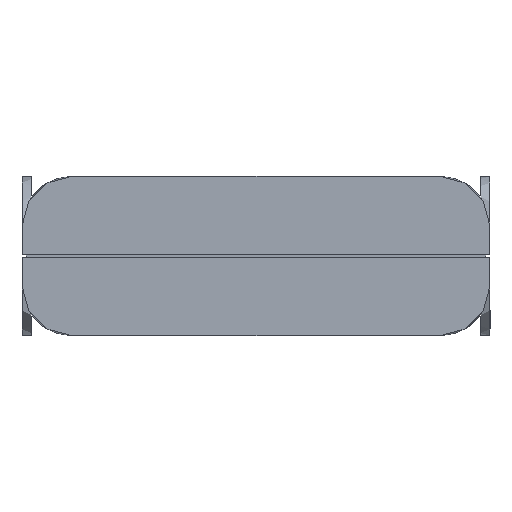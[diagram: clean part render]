
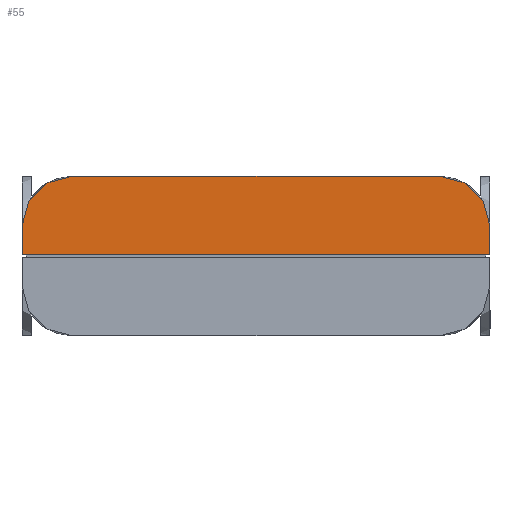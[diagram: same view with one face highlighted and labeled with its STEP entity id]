
A CAD part, left-side view. The second image highlights one B-rep face of the part: STEP entity #55.
In plain terms, the highlighted planar face has unit normal (-1, 0, 0).
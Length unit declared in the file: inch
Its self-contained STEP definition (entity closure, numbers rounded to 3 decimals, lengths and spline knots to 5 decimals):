
#55=ADVANCED_FACE('',(#111),#923,.T.);
#111=FACE_OUTER_BOUND('',#167,.T.);
#167=EDGE_LOOP('',(#315,#316,#317,#318,#319,#320));
#315=ORIENTED_EDGE('',*,*,#538,.F.);
#316=ORIENTED_EDGE('',*,*,#536,.F.);
#317=ORIENTED_EDGE('',*,*,#533,.F.);
#318=ORIENTED_EDGE('',*,*,#531,.F.);
#319=ORIENTED_EDGE('',*,*,#530,.T.);
#320=ORIENTED_EDGE('',*,*,#548,.F.);
#530=EDGE_CURVE('',#841,#851,#660,.T.);
#531=EDGE_CURVE('',#841,#842,#754,.T.);
#533=EDGE_CURVE('',#842,#844,#661,.T.);
#536=EDGE_CURVE('',#844,#846,#755,.T.);
#538=EDGE_CURVE('',#846,#853,#664,.T.);
#548=EDGE_CURVE('',#853,#851,#672,.T.);
#660=B_SPLINE_CURVE_WITH_KNOTS('',1,(#1514,#1515),.UNSPECIFIED.,.F.,.F.,
(2,2),(115.22523,116.66273),.UNSPECIFIED.);
#661=B_SPLINE_CURVE_WITH_KNOTS('',1,(#1521,#1522),.UNSPECIFIED.,.F.,.F.,
(2,2),(-111.29824,-92.79824),.UNSPECIFIED.);
#664=B_SPLINE_CURVE_WITH_KNOTS('',1,(#1533,#1534),.UNSPECIFIED.,.F.,.F.,
(2,2),(-88.87125,-87.43375),.UNSPECIFIED.);
#672=B_SPLINE_CURVE_WITH_KNOTS('',1,(#1615,#1616),.UNSPECIFIED.,.F.,.F.,
(2,2),(-47.25,-23.75),.UNSPECIFIED.);
#754=TRIMMED_CURVE($,#788,(#1517),(#1518),.T.,.CARTESIAN.);
#755=TRIMMED_CURVE($,#789,(#1528),(#1529),.T.,.CARTESIAN.);
#788=CIRCLE('',#1093,2.5);
#789=CIRCLE('',#1094,2.5);
#841=VERTEX_POINT('',#1479);
#842=VERTEX_POINT('',#1480);
#844=VERTEX_POINT('',#1482);
#846=VERTEX_POINT('',#1484);
#851=VERTEX_POINT('',#1489);
#853=VERTEX_POINT('',#1491);
#923=PLANE('',#1086);
#1086=AXIS2_PLACEMENT_3D('',#1469,#1188,$);
#1093=AXIS2_PLACEMENT_3D($,#1516,#1198,#1199);
#1094=AXIS2_PLACEMENT_3D($,#1527,#1200,#1201);
#1188=DIRECTION('',(-1.,0.,0.));
#1198=DIRECTION('',(1.,0.,0.));
#1199=DIRECTION('',(0.,1.,0.));
#1200=DIRECTION('',(1.,0.,0.));
#1201=DIRECTION('',(0.,0.,1.));
#1469=CARTESIAN_POINT('',(2710.03372,195.49431,-63.76385));
#1479=CARTESIAN_POINT('',(2710.03372,195.49431,-66.26385));
#1480=CARTESIAN_POINT('',(2710.03372,192.99431,-63.76385));
#1482=CARTESIAN_POINT('',(2710.03372,174.49431,-63.76385));
#1484=CARTESIAN_POINT('',(2710.03372,171.99431,-66.26385));
#1489=CARTESIAN_POINT('',(2710.03372,195.49431,-67.70135));
#1491=CARTESIAN_POINT('',(2710.03372,171.99431,-67.70135));
#1514=CARTESIAN_POINT('',(2710.03372,195.49431,-66.26385));
#1515=CARTESIAN_POINT('',(2710.03372,195.49431,-67.70135));
#1516=CARTESIAN_POINT('',(2710.03372,192.99431,-66.26385));
#1517=CARTESIAN_POINT('',(2710.03372,195.49431,-66.26385));
#1518=CARTESIAN_POINT('',(2710.03372,192.99431,-63.76385));
#1521=CARTESIAN_POINT('',(2710.03372,192.99431,-63.76385));
#1522=CARTESIAN_POINT('',(2710.03372,174.49431,-63.76385));
#1527=CARTESIAN_POINT('',(2710.03372,174.49431,-66.26385));
#1528=CARTESIAN_POINT('',(2710.03372,174.49431,-63.76385));
#1529=CARTESIAN_POINT('',(2710.03372,171.99431,-66.26385));
#1533=CARTESIAN_POINT('',(2710.03372,171.99431,-66.26385));
#1534=CARTESIAN_POINT('',(2710.03372,171.99431,-67.70135));
#1615=CARTESIAN_POINT('',(2710.03372,171.99431,-67.70135));
#1616=CARTESIAN_POINT('',(2710.03372,195.49431,-67.70135));
